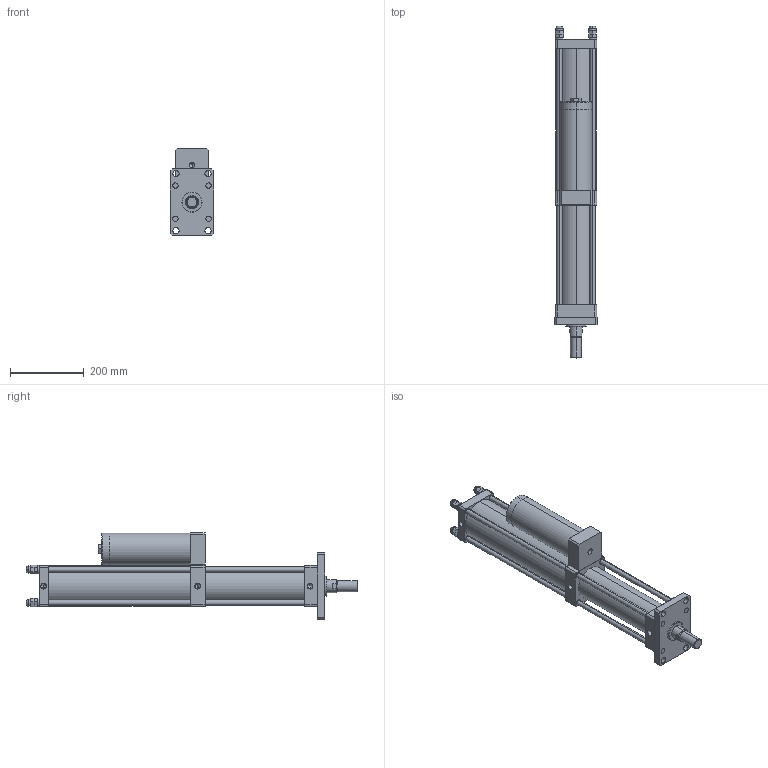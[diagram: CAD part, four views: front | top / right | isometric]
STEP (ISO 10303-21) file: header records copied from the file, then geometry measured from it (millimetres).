
FILE_DESCRIPTION (( 'STEP AP203' ), '1' );
FILE_NAME ('MPT-80-50-20-8T.STEP', '2016-03-11T03:26:00', ( 'WIN' ), ( '' ), 'SwSTEP 2.0', 'SolidWorks 2014', '' );
FILE_SCHEMA (( 'CONFIG_CONTROL_DESIGN' ));
Length unit declared in the file: millimetre
Products named in the file (1): MPT-80-50-20-8T
Bounding box: 118 x 901.01 x 235 mm (x, y, z)
Volume: 7303762.4 mm3; surface area: 817651.3 mm2
Topology: 20 solids, 20 shells, 399 faces, 972 edges, 566 vertices
Faces by surface type: plane 186, cylinder 90, torus 48, bspline 48, cone 27
Entity records: 12766 total; most frequent: CARTESIAN_POINT 3714, DIRECTION 1907, ORIENTED_EDGE 1812, EDGE_CURVE 906, AXIS2_PLACEMENT_3D 703, VERTEX_POINT 566, VECTOR 501, LINE 501
